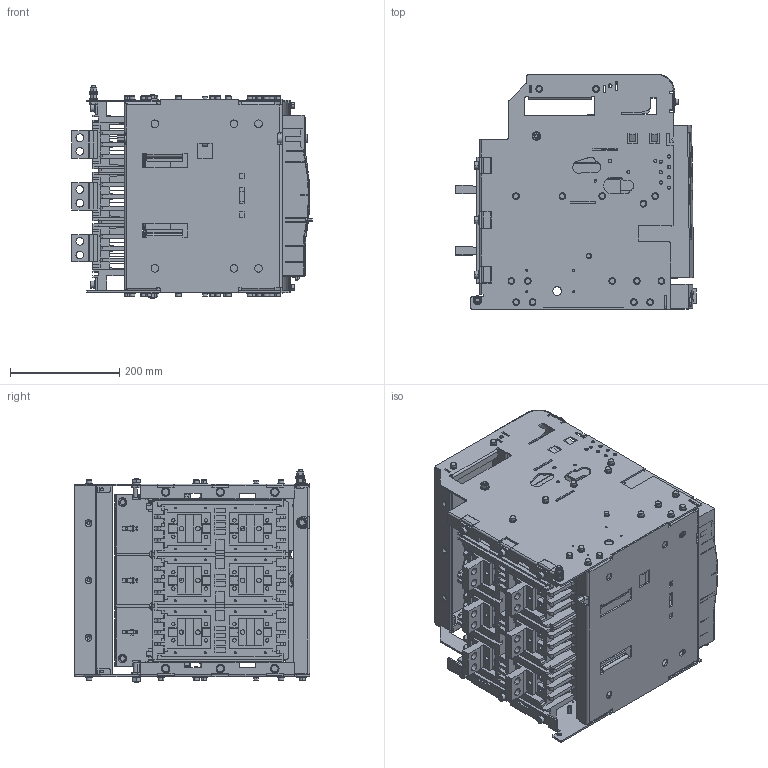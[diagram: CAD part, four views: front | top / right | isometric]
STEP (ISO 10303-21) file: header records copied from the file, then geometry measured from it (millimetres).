
FILE_DESCRIPTION (( 'STEP AP214' ), '1' );
FILE_NAME ('OptiMat A-S2-B-630-1600-3P-D-H.STEP', '2023-03-31T08:10:14', ( '' ), ( '' ), 'SwSTEP 2.0', 'SolidWorks 2018', '' );
FILE_SCHEMA (( 'AUTOMOTIVE_DESIGN' ));
Length unit declared in the file: millimetre
Products named in the file (2): OptiMat A-S2-B-630-1600-3P-D-H
Bounding box: 441.15 x 431.5 x 390.6 mm (x, y, z)
Surface area: 2391443.3 mm2 (no closed solid volume)
Topology: 0 solids, 249 shells, 2561 faces, 11282 edges, 8732 vertices
Faces by surface type: plane 1563, cylinder 759, torus 121, cone 100, bspline 13, sphere 5
Entity records: 151084 total; most frequent: CARTESIAN_POINT 31655, DIRECTION 18943, ORIENTED_EDGE 16382, EDGE_CURVE 11269, VERTEX_POINT 8724, VECTOR 7243, LINE 7243, AXIS2_PLACEMENT_3D 5850
